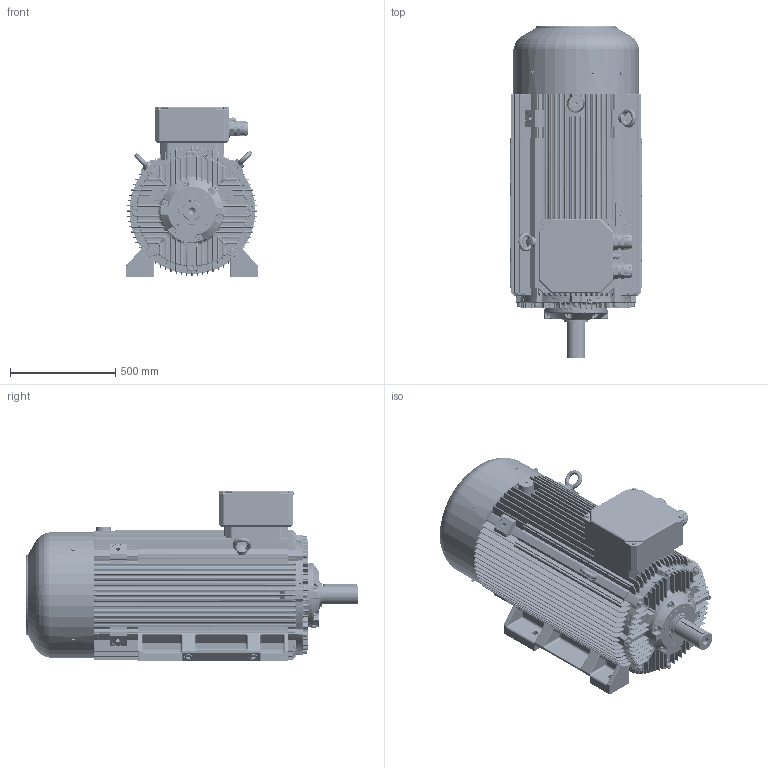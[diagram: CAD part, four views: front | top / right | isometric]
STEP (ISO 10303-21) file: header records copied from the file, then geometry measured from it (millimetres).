
FILE_DESCRIPTION(/* description */ ('Unknown'),/* implementation_level */ '2;1');
FILE_NAME(/* name */ '4SIE315L4_6C',/* time_stamp */ '2023-05-10T13:16:01+02:00',/* author */ ('Unknown'),/* organization */ ('Unknown'),/* preprocessor_version */ 'ST-DEVELOPER v16.7',/* originating_system */ 'DEX',/* authorisation */ $);
FILE_SCHEMA (('AUTOMOTIVE_DESIGN {1 0 10303 214 3 1 1}'));
Products named in the file (1): 4SIE315L4_6C
Bounding box: 631.24 x 1576.49 x 810.5 mm (x, y, z)
Volume: 141424600 mm3; surface area: 12500918.6 mm2
Topology: 2 solids, 38 shells, 9508 faces, 25994 edges, 16310 vertices
Faces by surface type: plane 5284, cylinder 1968, torus 788, bspline 787, cone 382, sphere 299
Full cylindrical faces by diameter (mm): 1.5 x3, 2.459 x7, 3.1 x4, 3.4 x4, 3.5 x2, 4 x1, 4.5 x1, 4.917 x4, 5 x2, 5.35 x2, 6.3 x1, 6.4 x2, 8 x4, 8.16 x8, 8.376 x6, 8.917 x2, 10 x24, 10.106 x12, 10.5 x4, 11 x6, 11.5 x1, 13.546 x9, 13.835 x4, 14 x6, 14.376 x21, 14.5 x2, 14.63 x8, 16 x23, 17 x1, 18 x10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
Entity records: 389055 total; most frequent: CARTESIAN_POINT 88807, ORIENTED_EDGE 49490, DIRECTION 45406, EDGE_CURVE 24745, VERTEX_POINT 15998, LINE 15734, VECTOR 15734, AXIS2_PLACEMENT_3D 14836
